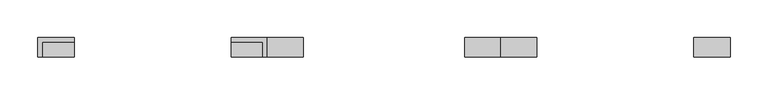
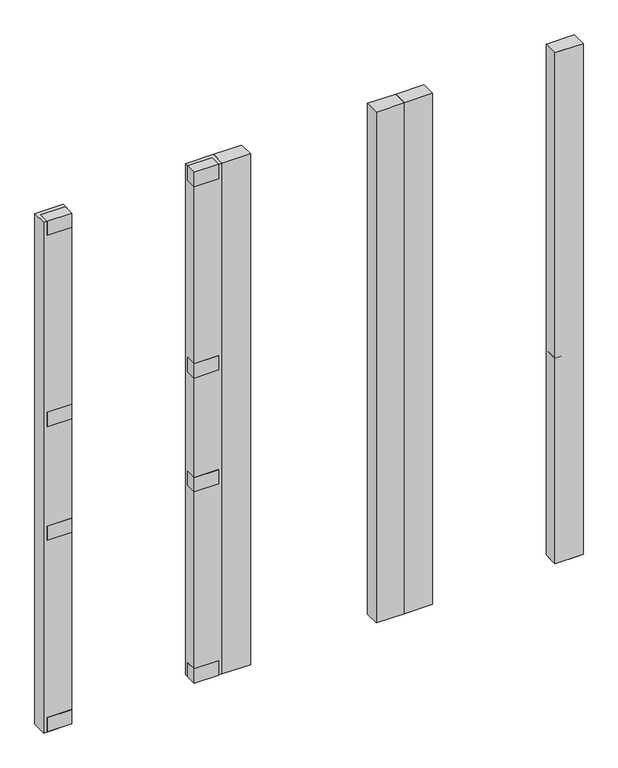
"""IFC4 building model written with IfcOpenShell, lengths in millimetres: proxy geometry, AERO^TABLE 2_H-QFSB27^BASE08."""

from ifc_helpers import new_model, si_unit, frame, origin, origin_with_axes, place, context, project, spatial, polyline, outline, extrude, source, transform, mapped, element, save


def generic_models_cd774e30(model_context):
    return source(origin(), model_context, "Body", "SweptSolid", [
        extrude(outline(polyline([(-47.625, 0.0), (-47.625, 19.05), (-6.35, 19.05), (-6.35, 0.0), (-47.625, 0.0)])), frame((0.0, 0.0, 545.084), z_axis=(0.0, 0.0, 1.0), x_axis=(1.0, 0.0, 0.0)), (0.0, 0.0, 1.0), 25.4),
        extrude(outline(polyline([(-295.85285, 19.05), (-254.57785, 19.05), (-254.57785, 0.0), (-295.85285, 0.0), (-295.85285, 19.05)])), frame((0.0, 0.0, 886.968), z_axis=(0.0, 0.0, 1.0), x_axis=(1.0, 0.0, 0.0)), (0.0, 0.0, 1.0), 25.4),
        extrude(outline(polyline([(-47.625, 0.0), (-47.625, 19.05), (-6.35, 19.05), (-6.35, 0.0), (-47.625, 0.0)])), origin_with_axes(), (0.0, 0.0, 1.0), 25.4),
        extrude(outline(polyline([(-47.625, 0.0), (-47.625, 19.05), (-6.35, 19.05), (-6.35, 0.0), (-47.625, 0.0)])), frame((0.0, 0.0, 886.968), z_axis=(0.0, 0.0, 1.0), x_axis=(1.0, 0.0, 0.0)), (0.0, 0.0, 1.0), 25.4),
        extrude(outline(polyline([(-295.85285, 19.05), (-254.57785, 19.05), (-254.57785, 0.0), (-295.85285, 0.0), (-295.85285, 19.05)])), frame((0.0, 0.0, 341.884), z_axis=(0.0, 0.0, 1.0), x_axis=(1.0, 0.0, 0.0)), (0.0, 0.0, 1.0), 25.4),
        extrude(outline(polyline([(307.975, 25.4), (355.6, 25.4), (355.6, 0.0), (307.975, 0.0), (307.975, 25.4)])), origin_with_axes(), (0.0, 0.0, 1.0), 912.368),
        extrude(outline(polyline([(314.325, 19.05), (355.6, 19.05), (355.6, 0.0), (314.325, 0.0), (314.325, 19.05)])), origin_with_axes(), (0.0, 0.0, 1.0), 25.4),
        extrude(outline(polyline([(562.55285, 25.4), (610.17785, 25.4), (610.17785, 0.0), (562.55285, 0.0), (562.55285, 25.4)])), origin_with_axes(), (0.0, 0.0, 1.0), 912.368),
        extrude(outline(polyline([(562.55285, 0.0), (562.55285, 19.05), (603.82785, 19.05), (603.82785, 0.0), (562.55285, 0.0)])), frame((0.0, 0.0, 886.968), z_axis=(0.0, 0.0, 1.0), x_axis=(1.0, 0.0, 0.0)), (0.0, 0.0, 1.0), 25.4),
        extrude(outline(polyline([(-295.85285, 19.05), (-254.57785, 19.05), (-254.57785, 0.0), (-295.85285, 0.0), (-295.85285, 19.05)])), frame((0.0, 0.0, 545.084), z_axis=(0.0, 0.0, 1.0), x_axis=(1.0, 0.0, 0.0)), (0.0, 0.0, 1.0), 25.4),
        extrude(outline(polyline([(-47.625, 0.0), (-47.625, 19.05), (-6.35, 19.05), (-6.35, 0.0), (-47.625, 0.0)])), frame((0.0, 0.0, 341.884), z_axis=(0.0, 0.0, 1.0), x_axis=(1.0, 0.0, 0.0)), (0.0, 0.0, 1.0), 25.4),
        extrude(outline(polyline([(562.55285, 0.0), (562.55285, 19.05), (603.82785, 19.05), (603.82785, 0.0), (562.55285, 0.0)])), origin_with_axes(), (0.0, 0.0, 1.0), 25.4),
        extrude(outline(polyline([(0.0, 25.4), (47.625, 25.4), (47.625, 0.0), (0.0, 0.0), (0.0, 25.4)])), origin_with_axes(), (0.0, 0.0, 1.0), 912.368),
        extrude(outline(polyline([(-295.85285, 19.05), (-254.57785, 19.05), (-254.57785, 0.0), (-295.85285, 0.0), (-295.85285, 19.05)])), origin_with_axes(), (0.0, 0.0, 1.0), 25.4),
        extrude(outline(polyline([(314.325, 19.05), (355.6, 19.05), (355.6, 0.0), (314.325, 0.0), (314.325, 19.05)])), frame((0.0, 0.0, 886.968), z_axis=(0.0, 0.0, 1.0), x_axis=(1.0, 0.0, 0.0)), (0.0, 0.0, 1.0), 25.4),
        extrude(outline(polyline([(314.325, 19.05), (355.6, 19.05), (355.6, 0.0), (314.325, 0.0), (314.325, 19.05)])), frame((0.0, 0.0, 545.084), z_axis=(0.0, 0.0, 1.0), x_axis=(1.0, 0.0, 0.0)), (0.0, 0.0, 1.0), 25.4),
        extrude(outline(polyline([(562.55285, 0.0), (562.55285, 19.05), (603.82785, 19.05), (603.82785, 0.0), (562.55285, 0.0)])), frame((0.0, 0.0, 545.084), z_axis=(0.0, 0.0, 1.0), x_axis=(1.0, 0.0, 0.0)), (0.0, 0.0, 1.0), 25.4),
        extrude(outline(polyline([(-302.20285, 25.4), (-254.57785, 25.4), (-254.57785, 0.0), (-302.20285, 0.0), (-302.20285, 25.4)])), origin_with_axes(), (0.0, 0.0, 1.0), 912.368),
        extrude(outline(polyline([(314.325, 19.05), (355.6, 19.05), (355.6, 0.0), (314.325, 0.0), (314.325, 19.05)])), frame((0.0, 0.0, 341.884), z_axis=(0.0, 0.0, 1.0), x_axis=(1.0, 0.0, 0.0)), (0.0, 0.0, 1.0), 25.4),
        extrude(outline(polyline([(260.35, 25.4), (307.975, 25.4), (307.975, 0.0), (260.35, 0.0), (260.35, 25.4)])), origin_with_axes(), (0.0, 0.0, 1.0), 912.368),
        extrude(outline(polyline([(562.55285, 0.0), (562.55285, 19.05), (603.82785, 19.05), (603.82785, 0.0), (562.55285, 0.0)])), frame((0.0, 0.0, 341.884), z_axis=(0.0, 0.0, 1.0), x_axis=(1.0, 0.0, 0.0)), (0.0, 0.0, 1.0), 25.4),
        extrude(outline(polyline([(-47.625, 25.4), (0.0, 25.4), (0.0, 0.0), (-47.625, 0.0), (-47.625, 25.4)])), origin_with_axes(), (0.0, 0.0, 1.0), 912.368),
    ])


if __name__ == "__main__":
    model = new_model("IFC4")
    model_context = context("Model", 3, world=origin())
    ifc_project = project(units=[si_unit("LENGTHUNIT", "METRE", prefix="MILLI")], contexts=[model_context])
    site = spatial("IfcSite", under=ifc_project)
    building = spatial("IfcBuilding", under=site)
    placement = place(None, origin())
    generic_models_shape = generic_models_cd774e30(model_context)
    element("IfcBuildingElementProxy", 1, Name="AERO^TABLE 2_H-QFSB27^BASE08", ObjectType="AERO^TABLE 2_H-QFSB27^BASE08", at=placement, inside=building, context=model_context, shape_type="MappedRepresentation", body=[
        mapped(generic_models_shape, transform((0.0, 0.0, 0.0), x_axis=(1.0, 0.0, 0.0), y_axis=(0.0, 1.0, 0.0), z_axis=(0.0, 0.0, 1.0))),
    ])
    save(model, "model.ifc")
